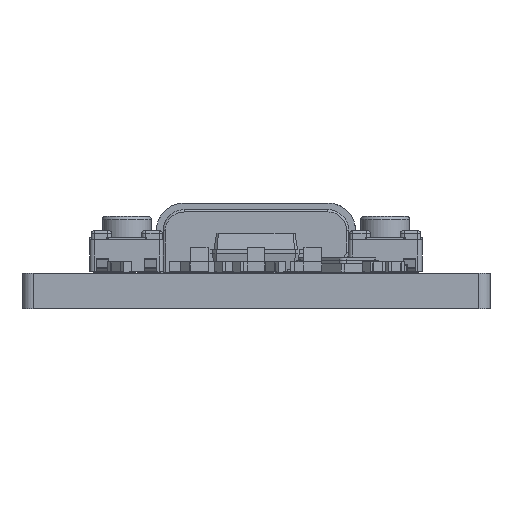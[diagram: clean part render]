
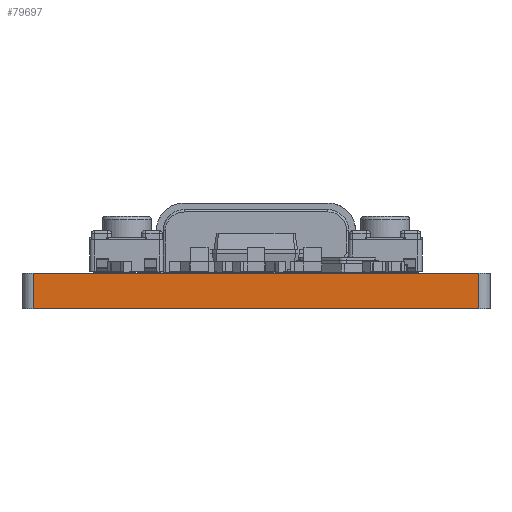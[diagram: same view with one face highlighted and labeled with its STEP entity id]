
A CAD part, front view. The second image highlights one B-rep face of the part: STEP entity #79697.
In plain terms, the highlighted planar face has unit normal (0, -1, 0).
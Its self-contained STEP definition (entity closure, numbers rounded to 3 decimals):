
#68259 = PLANE('',#68260);
#68260 = AXIS2_PLACEMENT_3D('',#68261,#68262,#68263);
#68261 = CARTESIAN_POINT('',(210.5,-124.5,0.));
#68262 = DIRECTION('',(-0.,-0.,-1.));
#68263 = DIRECTION('',(-1.,0.,0.));
#68287 = CYLINDRICAL_SURFACE('',#68288,0.5);
#68288 = AXIS2_PLACEMENT_3D('',#68289,#68290,#68291);
#68289 = CARTESIAN_POINT('',(200.5,-149.5,0.));
#68290 = DIRECTION('',(-0.,-0.,-1.));
#68291 = DIRECTION('',(1.,0.,-0.));
#68315 = PLANE('',#68316);
#68316 = AXIS2_PLACEMENT_3D('',#68317,#68318,#68319);
#68317 = CARTESIAN_POINT('',(210.5,-124.5,1.6));
#68318 = DIRECTION('',(-0.,-0.,-1.));
#68319 = DIRECTION('',(-1.,0.,0.));
#68355 = VERTEX_POINT('',#68356);
#68356 = CARTESIAN_POINT('',(200.5,-150.,0.));
#71601 = VERTEX_POINT('',#71602);
#71602 = CARTESIAN_POINT('',(220.5,-150.,0.));
#71621 = CYLINDRICAL_SURFACE('',#71622,0.5);
#71622 = AXIS2_PLACEMENT_3D('',#71623,#71624,#71625);
#71623 = CARTESIAN_POINT('',(220.5,-149.5,0.));
#71624 = DIRECTION('',(-0.,-0.,-1.));
#71625 = DIRECTION('',(1.,0.,-0.));
#71633 = EDGE_CURVE('',#71601,#68355,#71634,.T.);
#71634 = SURFACE_CURVE('',#71635,(#71639,#71646),.PCURVE_S1.);
#71635 = LINE('',#71636,#71637);
#71636 = CARTESIAN_POINT('',(220.5,-150.,0.));
#71637 = VECTOR('',#71638,1.);
#71638 = DIRECTION('',(-1.,0.,0.));
#71639 = PCURVE('',#68259,#71640);
#71640 = DEFINITIONAL_REPRESENTATION('',(#71641),#71645);
#71641 = LINE('',#71642,#71643);
#71642 = CARTESIAN_POINT('',(-10.,-25.5));
#71643 = VECTOR('',#71644,1.);
#71644 = DIRECTION('',(1.,0.));
#71645 = ( GEOMETRIC_REPRESENTATION_CONTEXT(2) 
PARAMETRIC_REPRESENTATION_CONTEXT() REPRESENTATION_CONTEXT('2D SPACE',''
  ) );
#71646 = PCURVE('',#71647,#71652);
#71647 = PLANE('',#71648);
#71648 = AXIS2_PLACEMENT_3D('',#71649,#71650,#71651);
#71649 = CARTESIAN_POINT('',(220.5,-150.,0.));
#71650 = DIRECTION('',(0.,-1.,0.));
#71651 = DIRECTION('',(-1.,0.,0.));
#71652 = DEFINITIONAL_REPRESENTATION('',(#71653),#71657);
#71653 = LINE('',#71654,#71655);
#71654 = CARTESIAN_POINT('',(0.,-0.));
#71655 = VECTOR('',#71656,1.);
#71656 = DIRECTION('',(1.,0.));
#71657 = ( GEOMETRIC_REPRESENTATION_CONTEXT(2) 
PARAMETRIC_REPRESENTATION_CONTEXT() REPRESENTATION_CONTEXT('2D SPACE',''
  ) );
#74523 = VERTEX_POINT('',#74524);
#74524 = CARTESIAN_POINT('',(200.5,-150.,1.6));
#77227 = VERTEX_POINT('',#77228);
#77228 = CARTESIAN_POINT('',(220.5,-150.,1.6));
#77254 = EDGE_CURVE('',#77227,#74523,#77255,.T.);
#77255 = SURFACE_CURVE('',#77256,(#77260,#77267),.PCURVE_S1.);
#77256 = LINE('',#77257,#77258);
#77257 = CARTESIAN_POINT('',(220.5,-150.,1.6));
#77258 = VECTOR('',#77259,1.);
#77259 = DIRECTION('',(-1.,0.,0.));
#77260 = PCURVE('',#68315,#77261);
#77261 = DEFINITIONAL_REPRESENTATION('',(#77262),#77266);
#77262 = LINE('',#77263,#77264);
#77263 = CARTESIAN_POINT('',(-10.,-25.5));
#77264 = VECTOR('',#77265,1.);
#77265 = DIRECTION('',(1.,0.));
#77266 = ( GEOMETRIC_REPRESENTATION_CONTEXT(2) 
PARAMETRIC_REPRESENTATION_CONTEXT() REPRESENTATION_CONTEXT('2D SPACE',''
  ) );
#77267 = PCURVE('',#71647,#77268);
#77268 = DEFINITIONAL_REPRESENTATION('',(#77269),#77273);
#77269 = LINE('',#77270,#77271);
#77270 = CARTESIAN_POINT('',(0.,-1.6));
#77271 = VECTOR('',#77272,1.);
#77272 = DIRECTION('',(1.,0.));
#77273 = ( GEOMETRIC_REPRESENTATION_CONTEXT(2) 
PARAMETRIC_REPRESENTATION_CONTEXT() REPRESENTATION_CONTEXT('2D SPACE',''
  ) );
#79676 = EDGE_CURVE('',#68355,#74523,#79677,.T.);
#79677 = SURFACE_CURVE('',#79678,(#79682,#79689),.PCURVE_S1.);
#79678 = LINE('',#79679,#79680);
#79679 = CARTESIAN_POINT('',(200.5,-150.,0.));
#79680 = VECTOR('',#79681,1.);
#79681 = DIRECTION('',(0.,0.,1.));
#79682 = PCURVE('',#68287,#79683);
#79683 = DEFINITIONAL_REPRESENTATION('',(#79684),#79688);
#79684 = LINE('',#79685,#79686);
#79685 = CARTESIAN_POINT('',(-4.712,0.));
#79686 = VECTOR('',#79687,1.);
#79687 = DIRECTION('',(-0.,-1.));
#79688 = ( GEOMETRIC_REPRESENTATION_CONTEXT(2) 
PARAMETRIC_REPRESENTATION_CONTEXT() REPRESENTATION_CONTEXT('2D SPACE',''
  ) );
#79689 = PCURVE('',#71647,#79690);
#79690 = DEFINITIONAL_REPRESENTATION('',(#79691),#79695);
#79691 = LINE('',#79692,#79693);
#79692 = CARTESIAN_POINT('',(20.,0.));
#79693 = VECTOR('',#79694,1.);
#79694 = DIRECTION('',(0.,-1.));
#79695 = ( GEOMETRIC_REPRESENTATION_CONTEXT(2) 
PARAMETRIC_REPRESENTATION_CONTEXT() REPRESENTATION_CONTEXT('2D SPACE',''
  ) );
#79697 = ADVANCED_FACE('',(#79698),#71647,.T.);
#79698 = FACE_BOUND('',#79699,.T.);
#79699 = EDGE_LOOP('',(#79700,#79721,#79722,#79723));
#79700 = ORIENTED_EDGE('',*,*,#79701,.T.);
#79701 = EDGE_CURVE('',#71601,#77227,#79702,.T.);
#79702 = SURFACE_CURVE('',#79703,(#79707,#79714),.PCURVE_S1.);
#79703 = LINE('',#79704,#79705);
#79704 = CARTESIAN_POINT('',(220.5,-150.,0.));
#79705 = VECTOR('',#79706,1.);
#79706 = DIRECTION('',(0.,0.,1.));
#79707 = PCURVE('',#71647,#79708);
#79708 = DEFINITIONAL_REPRESENTATION('',(#79709),#79713);
#79709 = LINE('',#79710,#79711);
#79710 = CARTESIAN_POINT('',(0.,-0.));
#79711 = VECTOR('',#79712,1.);
#79712 = DIRECTION('',(0.,-1.));
#79713 = ( GEOMETRIC_REPRESENTATION_CONTEXT(2) 
PARAMETRIC_REPRESENTATION_CONTEXT() REPRESENTATION_CONTEXT('2D SPACE',''
  ) );
#79714 = PCURVE('',#71621,#79715);
#79715 = DEFINITIONAL_REPRESENTATION('',(#79716),#79720);
#79716 = LINE('',#79717,#79718);
#79717 = CARTESIAN_POINT('',(-4.712,0.));
#79718 = VECTOR('',#79719,1.);
#79719 = DIRECTION('',(-0.,-1.));
#79720 = ( GEOMETRIC_REPRESENTATION_CONTEXT(2) 
PARAMETRIC_REPRESENTATION_CONTEXT() REPRESENTATION_CONTEXT('2D SPACE',''
  ) );
#79721 = ORIENTED_EDGE('',*,*,#77254,.T.);
#79722 = ORIENTED_EDGE('',*,*,#79676,.F.);
#79723 = ORIENTED_EDGE('',*,*,#71633,.F.);
